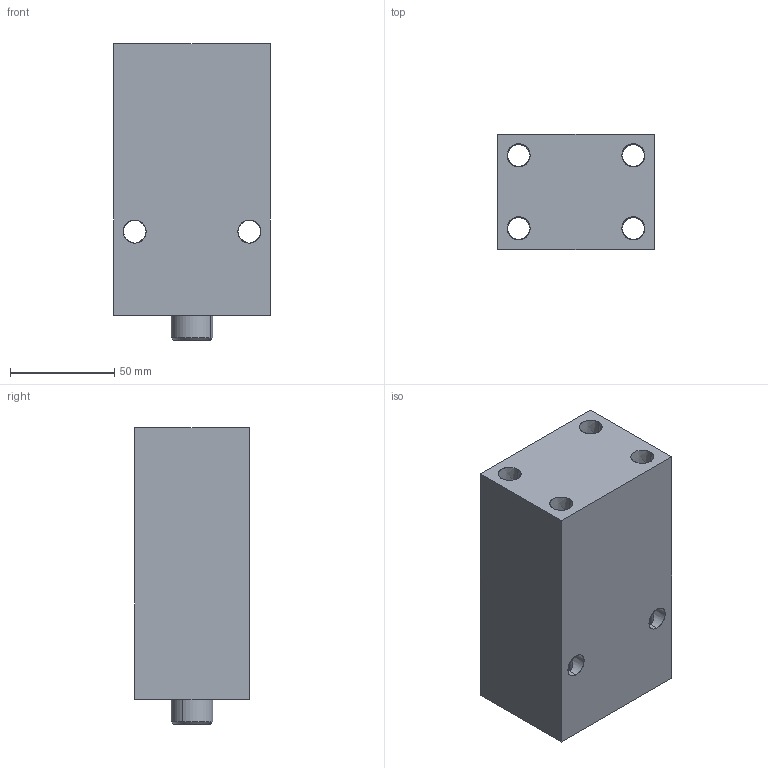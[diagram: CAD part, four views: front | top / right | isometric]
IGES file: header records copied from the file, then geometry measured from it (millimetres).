
Start section: SolidWorks IGES file using analytic representation for surfaces
Global section: file name: D:\karuppas\Clasp\3D model\Block cylinder B01C-Female thread\B01C-275F\Block cylinder_B01C-275F.IGS; native system: SolidWorks 2017; preprocessor: SolidWorks 2017; author: pc; date: 220709.235849; units: millimetre
Bounding box: 75 x 55 x 142 mm (x, y, z)
Surface area: 73051.7 mm2 (no closed solid volume)
Topology: 0 solids, 0 shells, 335 faces, 5014 edges, 5008 vertices
Faces by surface type: bspline 283, revolution 52
